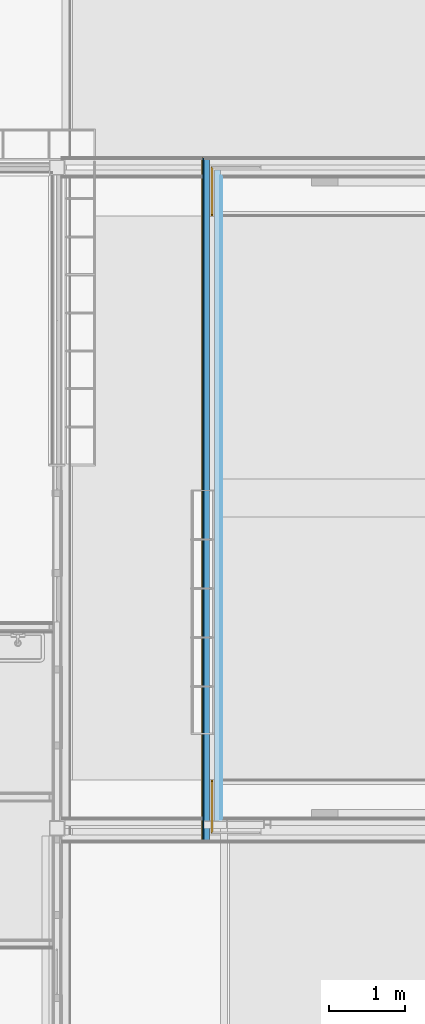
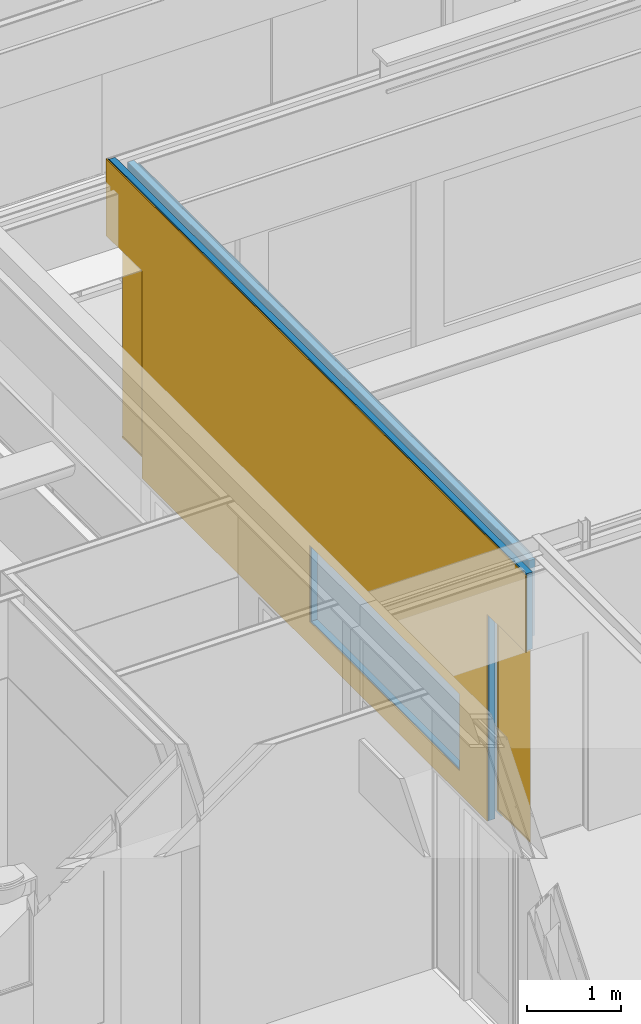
# One storey, part 58 of 165: 2 building element parts, 2 doors, 1 covering, 2 openings, 1 element without a shape of its own, plus 3 elements that do not belong to this part.
"""IFC2X3 building model written with IfcOpenShell, lengths in millimetres."""

from ifc_helpers import new_model, entity, si_unit, converted_unit, derived_unit, money_unit, direction, frame, origin_with_axes, place, context, subcontext, project, spatial, open_shell, faceted_brep, surface_model, material, type_object, element, fill, aggregate, save


model = new_model("IFC2X3")

# Units and contexts
model_context = context("Model", 3, precision=0.01, world=origin_with_axes(), true_north=direction((0.0, 1.0)))
body_context = subcontext(model_context, "Body", "Model", "MODEL_VIEW")
ifc_project = project(units=[si_unit("LENGTHUNIT", "METRE", prefix="MILLI"), si_unit("AREAUNIT", "SQUARE_METRE"), si_unit("VOLUMEUNIT", "CUBIC_METRE"), converted_unit("PLANEANGLEUNIT", "DEGREE", entity("IfcPlaneAngleMeasure", 0.0174532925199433), si_unit("PLANEANGLEUNIT", "RADIAN"), dimensions=[0, 0, 0, 0, 0, 0, 0]), money_unit("EUR"), converted_unit("TIMEUNIT", "Year", entity("IfcTimeMeasure", 31556926.0), si_unit("TIMEUNIT", "SECOND"), dimensions=[0, 0, 1, 0, 0, 0, 0]), si_unit("MASSUNIT", "GRAM", prefix="KILO"), si_unit("THERMODYNAMICTEMPERATUREUNIT", "DEGREE_CELSIUS"), si_unit("LUMINOUSINTENSITYUNIT", "LUMEN"), si_unit("ENERGYUNIT", "JOULE", prefix="MEGA"), derived_unit("THERMALCONDUCTANCEUNIT", [(si_unit("POWERUNIT", "WATT"), 1), (si_unit("LENGTHUNIT", "METRE"), -1), (si_unit("THERMODYNAMICTEMPERATUREUNIT", "KELVIN"), -1)]), derived_unit("SPECIFICHEATCAPACITYUNIT", [(si_unit("ENERGYUNIT", "JOULE"), 1), (si_unit("MASSUNIT", "GRAM", prefix="KILO"), -1), (si_unit("THERMODYNAMICTEMPERATUREUNIT", "KELVIN"), -1)]), derived_unit("MASSDENSITYUNIT", [(si_unit("MASSUNIT", "GRAM", prefix="KILO"), 1), (si_unit("VOLUMEUNIT", "CUBIC_METRE"), -1)])], contexts=[model_context])

# Site, building, storey
site_placement = place(None, origin_with_axes())
site = spatial("IfcSite", under=ifc_project, at=site_placement, Name="Site", CompositionType="ELEMENT")
building_placement = place(site_placement, origin_with_axes())
building = spatial("IfcBuilding", under=site, at=building_placement, Name="Naam gebouw", CompositionType="ELEMENT")
storey_placement = place(building_placement, origin_with_axes())
storey = spatial("IfcBuildingStorey", under=building, at=storey_placement, Name="Begane grond", CompositionType="ELEMENT", Elevation=0.0)

# Door
door_style = type_object("IfcDoorStyle", Name="R1 26", ConstructionType="NOTDEFINED", OperationType="SINGLE_SWING_RIGHT", ParameterTakesPrecedence=False, Sizeable=False)
proxy_placement = place(storey_placement, frame((10875.00000000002, 19450.00039292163, -100.0), z_axis=(0.0, 0.0, 1.0), x_axis=(0.0, -1.0, 0.0)))
opening_1_placement = place(proxy_placement, frame((8345.001576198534, 0.0, 100.0), z_axis=(0.0, 0.0, 1.0), x_axis=(1.0, 0.0, 0.0)))
door_1_placement = place(opening_1_placement, frame((339.9999999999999, 0.0, 0.0), z_axis=(0.0, 0.0, 1.0), x_axis=(-1.0, 0.0, 0.0)))
door_1 = element("IfcDoor", 1, at=door_1_placement, inside=storey, type_object=door_style, Name="_B.07", ObjectType="DOOR", OverallHeight=2600.0, OverallWidth=680.0, context=body_context, shape_type="SurfaceModel", body=[
    faceted_brep([(660.0000000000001, -9.999999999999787, 2580.0), (679.9999999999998, -9.999999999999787, 2580.0), (679.9999999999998, 10.00000000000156, 2580.0), (660.0000000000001, 10.00000000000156, 2580.0), (660.0000000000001, -9.99999999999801, 19.99999999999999), (679.9999999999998, -9.99999999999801, 19.99999999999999), (679.9999999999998, 10.00000000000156, 19.99999999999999), (660.0000000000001, 10.00000000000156, 19.99999999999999)], [[[0, 1, 2, 3]], [[0, 4, 5, 1]], [[1, 5, 6, 2]], [[3, 2, 6, 7]], [[4, 0, 3, 7]], [[5, 4, 7, 6]]]),
    faceted_brep([(-19.99999999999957, 10.00000000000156, 0.0), (0.0, -9.99999999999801, 0.0), (0.0, -9.99999999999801, 19.99999999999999), (-19.99999999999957, 10.00000000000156, 19.99999999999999), (679.9999999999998, 10.00000000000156, 0.0), (679.9999999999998, -9.99999999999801, 0.0), (660.0000000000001, -9.99999999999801, 19.99999999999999), (679.9999999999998, -9.99999999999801, 19.99999999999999), (660.0000000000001, 10.00000000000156, 19.99999999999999), (679.9999999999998, 10.00000000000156, 19.99999999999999)], [[[0, 1, 2, 3]], [[1, 0, 4, 5]], [[6, 2, 1, 5, 7]], [[2, 6, 8, 3]], [[0, 3, 8, 9, 4]], [[7, 5, 4, 9]], [[8, 6, 7, 9]]]),
    faceted_brep([(-19.99999999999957, 10.00000000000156, 2600.0), (-19.99999999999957, 10.00000000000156, 2580.0), (0.0, -9.99999999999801, 2580.0), (0.0, -9.99999999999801, 2600.0), (679.9999999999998, 10.00000000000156, 2600.0), (679.9999999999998, 10.00000000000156, 2580.0), (660.0000000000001, 10.00000000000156, 2580.0), (660.0000000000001, -9.999999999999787, 2580.0), (679.9999999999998, -9.999999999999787, 2580.0), (679.9999999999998, -9.999999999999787, 2600.0)], [[[0, 1, 2, 3]], [[1, 0, 4, 5, 6]], [[7, 2, 1, 6]], [[2, 7, 8, 9, 3]], [[0, 3, 9, 4]], [[9, 8, 5, 4]], [[8, 7, 6, 5]]]),
    surface_model("IfcShellBasedSurfaceModel", [(660.0000000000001, -4.999999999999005, 19.99999999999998), (660.0000000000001, -4.999999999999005, 2580.0), (-5.000000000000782, -4.999999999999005, 2580.0), (-5.000000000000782, -4.999999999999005, 19.99999999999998)], [open_shell([[[0, 1, 2, 3]]])]),
    surface_model("IfcShellBasedSurfaceModel", [(660.0000000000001, 5.000000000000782, 19.99999999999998), (-15.00000000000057, 5.000000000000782, 19.99999999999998), (-15.00000000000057, 5.000000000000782, 2580.0), (660.0000000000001, 5.000000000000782, 2580.0)], [open_shell([[[0, 1, 2, 3]]])]),
])

opening_2_placement = place(proxy_placement, frame((322.499999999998, 0.0, 100.0), z_axis=(0.0, 0.0, 1.0), x_axis=(1.0, 0.0, 0.0)))
door_2_placement = place(opening_2_placement, frame((312.5, 0.0, 0.0), z_axis=(0.0, 0.0, 1.0), x_axis=(-1.0, 0.0, 0.0)))
door_2 = element("IfcDoor", 2, at=door_2_placement, inside=storey, type_object=door_style, Name="_B.11", ObjectType="DOOR", OverallHeight=2600.0, OverallWidth=625.0, context=body_context, shape_type="SurfaceModel", body=[
    faceted_brep([(20.00000000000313, -9.999999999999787, 2580.0), (20.00000000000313, 9.999999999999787, 2580.0), (0.0, 9.999999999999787, 2580.0), (0.0, -9.999999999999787, 2580.0), (20.00000000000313, -9.999999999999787, 19.99999999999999), (20.00000000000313, 9.999999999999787, 19.99999999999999), (0.0, 9.999999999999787, 19.99999999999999), (0.0, -9.999999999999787, 19.99999999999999)], [[[0, 1, 2, 3]], [[4, 5, 1, 0]], [[1, 5, 6, 2]], [[3, 2, 6, 7]], [[0, 3, 7, 4]], [[7, 6, 5, 4]]]),
    faceted_brep([(0.0, 9.999999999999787, 19.99999999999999), (0.0, -9.999999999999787, 19.99999999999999), (20.00000000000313, -9.999999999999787, 19.99999999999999), (20.00000000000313, 9.999999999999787, 19.99999999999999), (0.0, -9.999999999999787, 0.0), (0.0, 9.999999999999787, 0.0), (625.0, -9.999999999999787, 0.0), (625.0, -9.999999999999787, 19.99999999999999), (644.9999999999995, 9.999999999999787, 19.99999999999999), (644.9999999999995, 9.999999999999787, 0.0)], [[[0, 1, 2, 3]], [[4, 1, 0, 5]], [[1, 4, 6, 7, 2]], [[2, 7, 8, 3]], [[5, 0, 3, 8, 9]], [[6, 4, 5, 9]], [[7, 6, 9, 8]]]),
    faceted_brep([(0.0, 9.999999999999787, 2580.0), (20.00000000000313, 9.999999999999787, 2580.0), (20.00000000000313, -9.999999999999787, 2580.0), (0.0, -9.999999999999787, 2580.0), (0.0, 9.999999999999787, 2600.0), (644.9999999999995, 9.999999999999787, 2600.0), (644.9999999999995, 9.999999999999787, 2580.0), (625.0, -10.00000000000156, 2580.0), (0.0, -9.999999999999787, 2600.0), (625.0, -10.00000000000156, 2600.0)], [[[0, 1, 2, 3]], [[0, 4, 5, 6, 1]], [[7, 2, 1, 6]], [[8, 3, 2, 7, 9]], [[3, 8, 4, 0]], [[4, 8, 9, 5]], [[9, 7, 6, 5]]]),
    surface_model("IfcShellBasedSurfaceModel", [(20.00000000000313, -5.000000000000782, 19.99999999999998), (629.999999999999, -5.000000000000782, 19.99999999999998), (629.999999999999, -5.000000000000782, 2580.0), (20.00000000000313, -5.000000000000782, 2580.0)], [open_shell([[[0, 1, 2, 3]]])]),
    surface_model("IfcShellBasedSurfaceModel", [(20.00000000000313, 4.999999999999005, 19.99999999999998), (20.00000000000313, 4.999999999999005, 2580.0), (639.999999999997, 4.999999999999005, 2580.0), (639.999999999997, 4.999999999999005, 19.99999999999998)], [open_shell([[[0, 1, 2, 3]]])]),
])

# Proxy, opening
building_element_proxy_type = type_object("IfcBuildingElementProxyType", Name="22 Metal stud 270 oregon pine 270", PredefinedType="NOTDEFINED")
proxy = element("IfcBuildingElementProxy", 3, at=proxy_placement, inside=storey, type_object=building_element_proxy_type, Name="_Wand-x")
opening_1 = element("IfcOpeningElement", 4, at=opening_1_placement, cuts=proxy, Name="_B.07", context=body_context, shape_type="Brep", body=[
    faceted_brep([(484.9999999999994, -134.999999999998, 2600.0), (484.9999999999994, -135.9999999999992, 2600.0), (484.9999999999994, -135.9999999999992, -100.0000000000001), (484.9999999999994, -134.999999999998, -100.0000000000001), (-339.9999999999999, -10.00000000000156, 2600.0), (-339.9999999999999, -135.9999999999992, 2600.0), (158.7962962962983, 135.9999999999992, 2600.0), (-339.9999999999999, 135.9999999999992, 2600.0), (-339.9999999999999, -135.9999999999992, -100.0000000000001), (-339.9999999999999, -10.00000000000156, -100.0000000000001), (-339.9999999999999, 135.9999999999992, -100.0000000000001), (158.7962962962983, 135.9999999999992, -100.0000000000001)], [[[0, 1, 2, 3]], [[4, 5, 1, 0, 6, 7]], [[5, 8, 2, 1]], [[3, 2, 8, 9, 10, 11]], [[0, 3, 11, 6]], [[4, 9, 8, 5]], [[11, 10, 7, 6]], [[9, 4, 7, 10]]]),
])

fill(opening_1, door_1)

# Opening
opening_2 = element("IfcOpeningElement", 5, at=opening_2_placement, cuts=proxy, Name="_B.11", context=body_context, shape_type="Brep", body=[
    faceted_brep([(312.5, -9.999999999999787, -100.0000000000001), (312.5, -9.999999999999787, 2600.0), (312.5, -135.9999999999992, 2600.0), (312.5, -135.9999999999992, -100.0000000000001), (312.5, 135.9999999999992, -100.0000000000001), (312.5, 135.9999999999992, 2600.0), (-457.4999999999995, -135.0000000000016, 2600.0), (-457.4999999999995, -135.9999999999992, 2600.0), (-186.4999999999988, 135.9999999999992, 2600.0), (-457.4999999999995, -135.9999999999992, -100.0000000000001), (-457.4999999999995, -135.0000000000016, -100.0000000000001), (-186.4999999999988, 135.9999999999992, -100.0000000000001)], [[[0, 1, 2, 3]], [[1, 0, 4, 5]], [[6, 7, 2, 1, 5, 8]], [[7, 9, 3, 2]], [[0, 3, 9, 10, 11, 4]], [[5, 4, 11, 8]], [[10, 9, 7, 6]], [[8, 11, 10, 6]]]),
])

fill(opening_2, door_2)

# Covering
ifc_material_1 = material(Name="Hout - Multiplex Oregon Pine")
covering_placement = place(proxy_placement, origin_with_axes())
covering = element("IfcCovering", 6, at=covering_placement, material=ifc_material_1, Name="Hout - Multiplex Oregon Pine", PredefinedType="NOTDEFINED", context=body_context, shape_type="Brep", body=[
    faceted_brep([(-135.0000000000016, -134.9999999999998, 2700.0), (634.999999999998, -134.9999999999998, 2700.0), (634.999999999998, -134.9999999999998, 0.0), (8005.001576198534, -135.0000000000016, 0.0), (8005.001576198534, -135.0000000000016, 2700.0), (8830.001576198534, -135.0000000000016, 2700.0), (8830.001576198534, -135.0000000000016, 3700.0), (-135.0000000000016, -134.9999999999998, 3700.0), (7415.00036062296, -135.0000000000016, 300.0000000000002), (4215.000360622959, -134.9999999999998, 300.0000000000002), (4215.000360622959, -134.9999999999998, 1300.0), (7415.00036062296, -135.0000000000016, 1300.0), (-135.0000000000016, -122.5000000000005, 2700.0), (634.999999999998, -122.4999999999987, 2700.0), (634.999999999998, -122.4999955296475, 0.0), (8005.001576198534, -122.4999955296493, 0.0), (8005.001576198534, -122.5000000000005, 2700.0), (8830.001576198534, -122.5000000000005, 2700.0), (8830.001576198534, -122.5000000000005, 3700.0), (-135.0000000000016, -122.5000000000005, 3700.0), (7415.00036062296, -122.4999955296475, 300.0000000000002), (4215.000360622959, -122.4999955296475, 300.0000000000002), (4215.000360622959, -122.4999955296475, 1300.0), (7415.00036062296, -122.4999955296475, 1300.0)], [[[0, 1, 2, 3, 4, 5, 6, 7], [8, 9, 10, 11]], [[0, 12, 13, 1]], [[1, 13, 14, 2]], [[3, 2, 14, 15]], [[3, 15, 16, 4]], [[17, 5, 4, 16]], [[6, 5, 17, 18]], [[7, 6, 18, 19]], [[19, 12, 0, 7]], [[20, 21, 9, 8]], [[21, 22, 10, 9]], [[22, 23, 11, 10]], [[23, 20, 8, 11]], [[15, 14, 13, 12, 19, 18, 17, 16], [20, 23, 22, 21]]]),
])

# Building element part
ifc_material_2 = material(Name="Gipsplaat")
building_element_part_1_placement = place(proxy_placement, origin_with_axes())
building_element_part_1 = element("IfcBuildingElementPart", 7, at=building_element_part_1_placement, material=ifc_material_2, Name="Gipsplaat", context=body_context, shape_type="Brep", body=[
    faceted_brep([(634.999999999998, 135.0000193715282, 0.0), (634.999999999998, 135.0000193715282, 2700.0), (135.0000193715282, 135.0000193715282, 2700.0), (122.4999999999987, 134.9999999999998, 2700.0), (122.4999999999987, 134.9999999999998, 3700.0), (8517.501576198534, 134.9999999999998, 3700.0), (8517.501576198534, 134.9999999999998, 2700.0), (8505.001552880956, 135.0000193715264, 2700.0), (8005.001576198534, 135.0000193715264, 2700.0), (8005.001576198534, 135.0000193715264, 0.0), (634.999999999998, 122.4999999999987, 0.0), (634.999999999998, 122.5000000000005, 2700.0), (122.4999999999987, 122.5000000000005, 2700.0), (122.4999999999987, 122.5000000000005, 3700.0), (8517.501576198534, 122.4999999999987, 3700.0), (8517.501576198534, 122.4999999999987, 2700.0), (8005.001576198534, 122.4999999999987, 2700.0), (8005.001576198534, 122.4999999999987, 0.0)], [[[0, 1, 2, 3, 4, 5, 6, 7, 8, 9]], [[1, 0, 10, 11]], [[2, 1, 11, 12, 3]], [[3, 12, 13, 4]], [[14, 5, 4, 13]], [[15, 6, 5, 14]], [[15, 16, 8, 7, 6]], [[9, 8, 16, 17]], [[10, 0, 9, 17]], [[11, 10, 17, 16, 15, 14, 13, 12]]]),
])

ifc_material_3 = material(Name="ALG - LICHTE SCHEIDINGSWAND")
building_element_part_2_placement = place(proxy_placement, origin_with_axes())
building_element_part_2 = element("IfcBuildingElementPart", 8, at=building_element_part_2_placement, material=ifc_material_3, Name="ALG - LICHTE SCHEIDINGSWAND", context=body_context, shape_type="Brep", body=[
    faceted_brep([(634.999999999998, 109.9999999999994, 0.0), (634.999999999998, 110.0000000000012, 2700.0), (35.00000000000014, 109.9999999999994, 2700.0), (35.00000000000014, 109.9999999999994, 3700.0), (8605.001576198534, 109.9999999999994, 3700.0), (8605.001576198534, 109.9999999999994, 2700.0), (8005.001576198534, 109.9999999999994, 2700.0), (8005.001576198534, 109.9999999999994, 0.0), (634.999999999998, 34.99998360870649, 0.0), (634.999999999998, 35.00000000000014, 2700.0), (35.00000000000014, 35.00000000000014, 2700.0), (35.00000000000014, 35.00000000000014, 3700.0), (8605.001576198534, 34.99999999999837, 3700.0), (8605.001576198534, 34.99999999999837, 2700.0), (8005.001576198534, 34.99999999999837, 2700.0), (8005.001576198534, 34.99998360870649, 0.0)], [[[0, 1, 2, 3, 4, 5, 6, 7]], [[1, 0, 8, 9]], [[2, 1, 9, 10]], [[2, 10, 11, 3]], [[12, 4, 3, 11]], [[13, 5, 4, 12]], [[13, 14, 6, 5]], [[7, 6, 14, 15]], [[8, 0, 7, 15]], [[9, 8, 15, 14, 13, 12, 11, 10]]]),
])

building_element_part_3_placement = place(proxy_placement, origin_with_axes())
building_element_part_3 = element("IfcBuildingElementPart", 9, at=building_element_part_3_placement, material=ifc_material_3, Name="ALG - LICHTE SCHEIDINGSWAND", context=body_context, shape_type="Brep", body=[
    faceted_brep([(-109.9999999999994, -109.9999999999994, 2700.0), (634.999999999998, -109.9999999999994, 2700.0), (634.999999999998, -109.9999999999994, 0.0), (8005.001576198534, -110.0000000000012, 0.0), (8005.001576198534, -110.0000000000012, 2700.0), (8805.001576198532, -110.0000000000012, 2700.0), (8805.001576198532, -110.0000000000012, 3700.0), (-109.9999999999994, -109.9999999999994, 3700.0), (7415.00036062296, -110.0000000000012, 300.0000000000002), (4215.000360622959, -109.9999999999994, 300.0000000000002), (4215.000360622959, -109.9999999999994, 1300.0), (7415.00036062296, -110.0000000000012, 1300.0), (-109.9999999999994, -35.00000000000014, 2700.0), (634.999999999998, -35.00000000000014, 2700.0), (634.999999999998, -35.00001937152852, 0.0), (8005.001576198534, -35.00001937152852, 0.0), (8005.001576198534, -35.00000000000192, 2700.0), (8805.001576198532, -35.00000000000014, 2700.0), (8805.001576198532, -35.00000000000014, 3700.0), (-109.9999999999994, -35.00000000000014, 3700.0), (7415.00036062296, -35.00001937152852, 300.0000000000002), (4215.000360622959, -35.00001937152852, 300.0000000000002), (4215.000360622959, -35.00001937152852, 1300.0), (7415.00036062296, -35.00001937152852, 1300.0)], [[[0, 1, 2, 3, 4, 5, 6, 7], [8, 9, 10, 11]], [[0, 12, 13, 1]], [[1, 13, 14, 2]], [[3, 2, 14, 15]], [[3, 15, 16, 4]], [[5, 4, 16, 17]], [[6, 5, 17, 18]], [[7, 6, 18, 19]], [[19, 12, 0, 7]], [[20, 21, 9, 8]], [[21, 22, 10, 9]], [[22, 23, 11, 10]], [[23, 20, 8, 11]], [[15, 14, 13, 12, 19, 18, 17, 16], [20, 23, 22, 21]]]),
])

building_element_part_4_placement = place(proxy_placement, origin_with_axes())
building_element_part_4 = element("IfcBuildingElementPart", 10, at=building_element_part_4_placement, material=ifc_material_2, Name="Gipsplaat", context=body_context, shape_type="Brep", body=[
    faceted_brep([(-122.5000000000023, -122.4999999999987, 2700.0), (634.999999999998, -122.4999999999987, 2700.0), (634.999999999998, -122.4999955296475, 0.0), (8005.001576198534, -122.4999955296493, 0.0), (8005.001576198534, -122.5000000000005, 2700.0), (8817.501576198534, -122.5000000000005, 2700.0), (8817.501576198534, -122.5000000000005, 3700.0), (-122.4999999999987, -122.5000000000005, 3700.0), (7415.00036062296, -122.5000000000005, 300.0000000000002), (4215.000360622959, -122.4999999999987, 300.0000000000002), (4215.000360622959, -122.4999999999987, 1300.0), (7415.00036062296, -122.5000000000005, 1300.0), (-122.4999999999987, -109.9999999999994, 2700.0), (634.999999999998, -109.9999999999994, 2700.0), (634.999999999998, -110.0000000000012, 0.0), (8005.001576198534, -110.0000000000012, 0.0), (8005.001576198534, -110.0000000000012, 2700.0), (8817.501576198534, -110.0000000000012, 2700.0), (8817.501576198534, -110.0000000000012, 3700.0), (-122.4999999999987, -109.9999999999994, 3700.0), (7415.00036062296, -110.0000000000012, 300.0000000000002), (4215.000360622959, -110.0000000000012, 300.0000000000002), (4215.000360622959, -110.0000000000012, 1300.0), (7415.00036062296, -110.0000000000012, 1300.0)], [[[0, 1, 2, 3, 4, 5, 6, 7], [8, 9, 10, 11]], [[0, 12, 13, 1]], [[1, 13, 14, 2]], [[3, 2, 14, 15]], [[3, 15, 16, 4]], [[5, 4, 16, 17]], [[6, 5, 17, 18]], [[7, 6, 18, 19]], [[19, 12, 0, 7]], [[20, 21, 9, 8]], [[21, 22, 10, 9]], [[22, 23, 11, 10]], [[23, 20, 8, 11]], [[15, 14, 13, 12, 19, 18, 17, 16], [20, 23, 22, 21]]]),
])

building_element_part_5_placement = place(proxy_placement, origin_with_axes())
building_element_part_5 = element("IfcBuildingElementPart", 11, at=building_element_part_5_placement, material=ifc_material_2, Name="Gipsplaat", context=body_context, shape_type="Brep", body=[
    faceted_brep([(634.999999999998, 122.5000000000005, 0.0), (634.999999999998, 122.5000000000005, 2700.0), (109.9999999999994, 122.5000000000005, 2700.0), (109.9999999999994, 122.5000000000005, 3700.0), (8530.001576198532, 122.4999999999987, 3700.0), (8530.001576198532, 122.4999999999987, 2700.0), (8005.001576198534, 122.4999999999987, 2700.0), (8005.001576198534, 122.4999999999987, 0.0), (634.999999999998, 109.9999999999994, 0.0), (634.999999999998, 110.0000000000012, 2700.0), (109.9999999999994, 109.9999999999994, 2700.0), (109.9999999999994, 109.9999999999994, 3700.0), (8530.001576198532, 109.9999999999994, 3700.0), (8530.001576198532, 109.9999999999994, 2700.0), (8005.001576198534, 109.9999999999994, 2700.0), (8005.001576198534, 109.9999999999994, 0.0)], [[[0, 1, 2, 3, 4, 5, 6, 7]], [[1, 0, 8, 9]], [[2, 1, 9, 10]], [[2, 10, 11, 3]], [[12, 4, 3, 11]], [[13, 5, 4, 12]], [[13, 14, 6, 5]], [[7, 6, 14, 15]], [[8, 0, 7, 15]], [[9, 8, 15, 14, 13, 12, 11, 10]]]),
])

aggregate(proxy, [building_element_part_1, building_element_part_2, building_element_part_3, building_element_part_4, covering, building_element_part_5])

save(model, "model.ifc")
